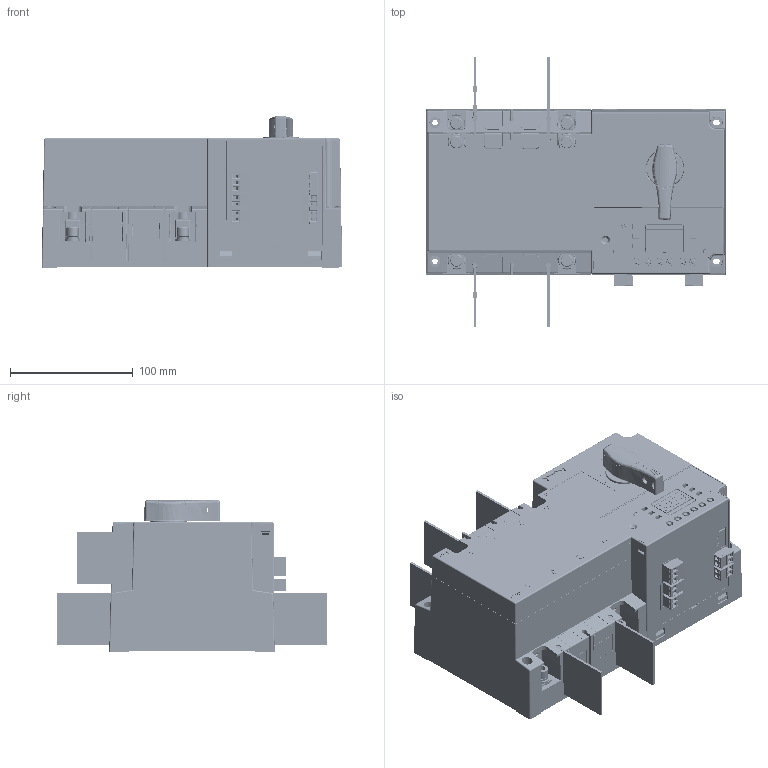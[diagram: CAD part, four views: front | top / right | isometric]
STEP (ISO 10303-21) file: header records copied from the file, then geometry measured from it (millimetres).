
FILE_DESCRIPTION (( 'STEP AP214' ), '1' );
FILE_NAME ('NDQ2A-125H價掛倰-2P耀倰芞.STEP', '2023-09-07T03:08:33', ( '' ), ( '' ), 'SwSTEP 2.0', 'SolidWorks 2018', '' );
FILE_SCHEMA (( 'AUTOMOTIVE_DESIGN' ));
Length unit declared in the file: millimetre
Products named in the file (83): 翋啣; 备用进线触头组件; 2EDG-2P脣芛-2; M4X35蹟隊.SLDASM(GB_CROSS_SCREWS_TYPE1 M4X35-35  H type-N); 忒梟蚾饜; 2EDG-2P眻褐韁宒傷赽-1; 硌尨腑; 粟菜3(GB_FASTENER_WASHER_SW 3); 菜え3; 2EDG-眻褐渀; 2EDG-2P眻褐脣釱-1; 路說え; M6-16囀鞠褒郪磁蹟隊; 2EDG-3P眻褐脣釱; M6x10囀鞠褒蹟佪.SLDPRT; 2EDG-3P脣芛褲; M3X28蹟隊(GB_CROSS_SCREWS_TYPE135 M3X6-N); 2EDG-3P眻褐韁宒傷赽; 125掘蚚黑芛; 常用出线触头组件; 掘蚚笢裔1; 2EDG-3P脣芛裔; 坶諶; 2EDG-2P眻褐脣釱; M6鞠褒楊擘醱蹟譫(GB_HEXAGON_TYPE12 M6-N); 都蚚羲壽裔啣2; 2EDG-脣芛郋; M4X28三组和螺钉-2; M4蹟譫(GB_FASTENER_NUT_SNAB1 M4-N); M4X28三组和螺钉; 杅鎢奪; 2EDG-蹟隊; M4X28蹟隊.SLDASM(GB_CROSS_SCREWS_TYPE1 M4X35-35  H type-N); 2EDG-2P脣芛; 羲壽醱裔1; M4X28三组和螺钉-1; 諷秶菁釱3; 蛌諉啣; M4X60三组和螺钉-3; M6-16囀鞠褒郪磁蹟隊-2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
Assembly tree (201 placements, depth 6):
  NDQ2A-125H價掛倰-2P耀倰芞
    常用进线触头组件
      掘蚚萇埭揖芛
    常用出线触头组件
      M6-16囀鞠褒郪磁蹟隊
        M6鞠褒楊擘醱蹟譫(GB_HEXAGON_TYPE12 M6-N)
        6mm粟菜(GB_FASTENER_WASHER_SW 6)
        6mm平垫(GB_FASTENER_WASHER_SMWC 6)
      蛹婥揖芛
    常用出线触头组件-1
      M6-16囀鞠褒郪磁蹟隊-1
        M6鞠褒楊擘醱蹟譫(GB_HEXAGON_TYPE12 M6-N)
        6mm粟菜(GB_FASTENER_WASHER_SW 6)
        6mm平垫(GB_FASTENER_WASHER_SMWC 6)
      蛹婥揖芛
    常用进线触头组件-1
      掘蚚萇埭揖芛
    备用进线触头组件
      M6-16囀鞠褒郪磁蹟隊-2
        M6鞠褒楊擘醱蹟譫(GB_HEXAGON_TYPE12 M6-N)
        6mm粟菜(GB_FASTENER_WASHER_SW 6)
        6mm平垫(GB_FASTENER_WASHER_SMWC 6)
      都蚚萇埭揖芛
    备用进线触头组件-1
      M6-16囀鞠褒郪磁蹟隊-3
        M6鞠褒楊擘醱蹟譫(GB_HEXAGON_TYPE12 M6-N)
        6mm粟菜(GB_FASTENER_WASHER_SW 6)
        6mm平垫(GB_FASTENER_WASHER_SMWC 6)
      都蚚萇埭揖芛
    諷秶ん1
      翋啣
        2EDG-3P眻褐韁宒傷赽
          2EDG-3P眻褐脣釱
            2EDG-3P脣釱褲
            2EDG-眻褐渀  x3
          2EDG-3P脣芛
            2EDG-3P脣芛褲
            2EDG-絳盄諶  x3
            2EDG-蹟隊  x3
            2EDG-脣芛郋  x3
            2EDG-3P脣芛裔
        2EDG-2P眻褐韁宒傷赽
          2EDG-2P眻褐脣釱
            2EDG-眻褐渀  x2
            2EDG-2P脣釱褲
          2EDG-2P脣芛
            2EDG-絳盄諶  x2
            2EDG-蹟隊  x2
            2EDG-脣芛郋  x2
            2EDG-2P脣芛褲
            2EDG-2P脣芛裔
        2EDG-2P眻褐韁宒傷赽-1
          2EDG-2P眻褐脣釱-1
            2EDG-眻褐渀  x2
            2EDG-2P脣釱褲
          2EDG-2P脣芛-1
            2EDG-絳盄諶  x2
            2EDG-蹟隊  x2
            2EDG-脣芛郋  x2
            2EDG-2P脣芛褲
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Bounding box: 245.02 x 220 x 124 mm (x, y, z)
Volume: 1012509.5 mm3; surface area: 817795.7 mm2
Topology: 166 solids, 171 shells, 18364 faces, 50125 edges, 32417 vertices
Faces by surface type: plane 10711, cylinder 5167, bspline 1228, cone 1102, sphere 96, torus 60
Entity records: 581060 total; most frequent: CARTESIAN_POINT 229092, ORIENTED_EDGE 79064, DIRECTION 62039, EDGE_CURVE 39532, LINE 26111, VECTOR 26111, VERTEX_POINT 25893, AXIS2_PLACEMENT_3D 17964
